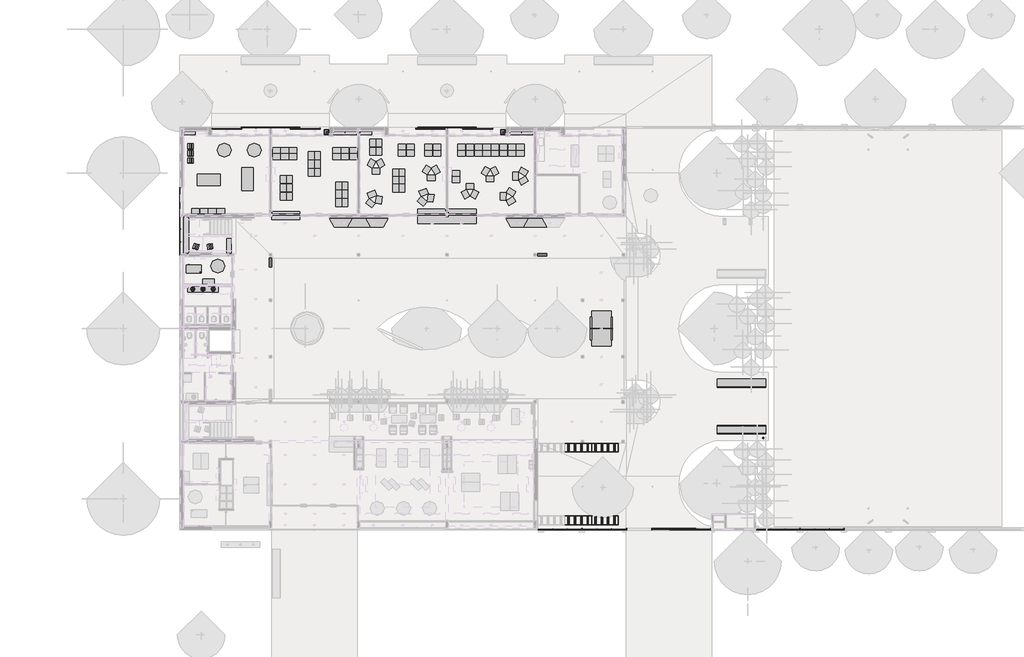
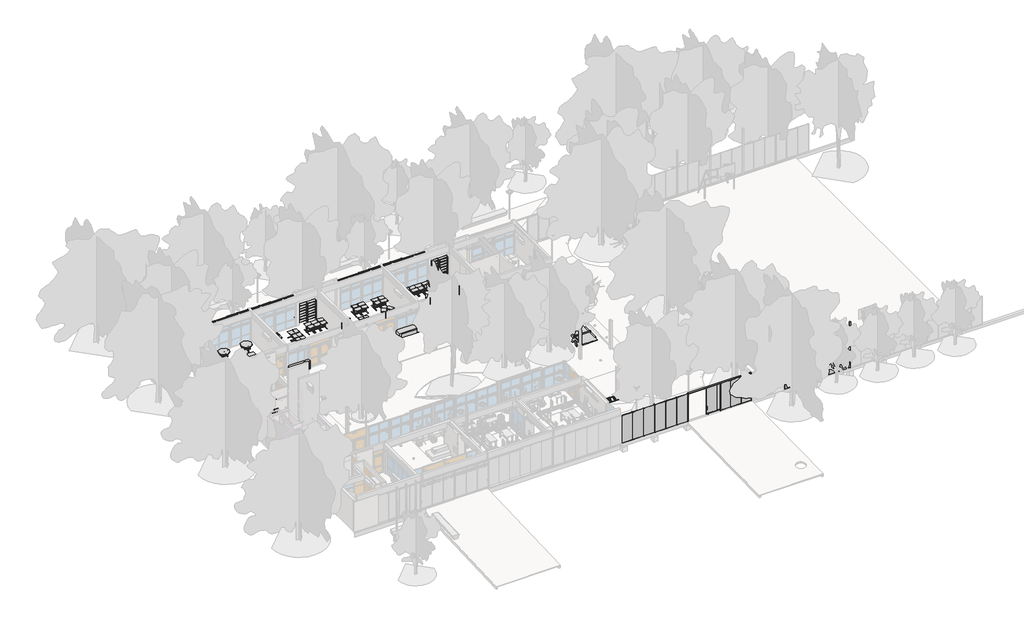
# One storey, part 18 of 22: 140 furniture elements, 7 flow terminals.
"""IFC4 building model written with IfcOpenShell, lengths in millimetres."""

from ifc_helpers import new_model, si_unit, frame, origin, place, context, project, spatial, polyline, outline, extrude, transform, mapped, element, save
from components import flow_terminal_6fa54989, flow_terminal_a7845b32, flow_terminal_eff49a54, furniture_19ca3369, furniture_ab439d99, furniture_b328b4e4, furniture_2009737b, furniture_937832ed, furniture_beb05811, furniture_e801d33e, furniture_be81a5af, furniture_7bc934b7, furniture_ed805c17, furniture_2b1f3197, furniture_a8138b70, furniture_b6be04e7, furniture_e9eda647, furniture_6eccd7ec, furniture_776c19b2, furniture_e62c53e2, furniture_a2313781, furniture_18cd3a3b, furniture_4388585e, furniture_e5700928, furniture_c9469870, furniture_b4863d8b, furniture_cf3a5ee0, furniture_af94d752, furniture_9026edcb, furniture_2_12_escritorio_2_12_escritorio_cd86329a, furniture_2_16_mesa_redonda_2_16_mesa_redonda_79845c6b

model = new_model("IFC4")

# Units and contexts
model_context = context("Model", 3, world=origin())
ifc_project = project(units=[si_unit("LENGTHUNIT", "METRE", prefix="MILLI")], contexts=[model_context])

# Site, building, storey
site = spatial("IfcSite", under=ifc_project)
building = spatial("IfcBuilding", under=site)
storey = spatial("IfcBuildingStorey", under=building, Name="PLanta baja", Elevation=0.0)

# Flow terminals
placement = place(None, origin())
flow_terminal_shape = flow_terminal_6fa54989(model_context)
element("IfcFlowTerminal", 1, ObjectType="APSA-I-AI-Bacha Circular Sobreponer-PET : APSA-I-AI-Bacha Circular Sobreponer-30cm-PET", at=placement, inside=storey, context=model_context, shape_type="MappedRepresentation", body=[
    mapped(flow_terminal_shape, transform((4113.7173694, 19056.4804035, 850.0), x_axis=(1.0, 0.0, 0.0), y_axis=(0.0, 1.0, 0.0), z_axis=(0.0, 0.0, 1.0))),
])
element("IfcFlowTerminal", 2, ObjectType="APSA-I-AI-Bacha Circular Sobreponer-PET : APSA-I-AI-Bacha Circular Sobreponer-30cm-PET", at=placement, inside=storey, context=model_context, shape_type="MappedRepresentation", body=[
    mapped(flow_terminal_shape, transform((4913.7173694, 19056.4804035, 850.0), x_axis=(1.0, 0.0, 0.0), y_axis=(0.0, 1.0, 0.0), z_axis=(0.0, 0.0, 1.0))),
])
element("IfcFlowTerminal", 3, ObjectType="APSA-I-AI-Bacha Circular Sobreponer-PET : APSA-I-AI-Bacha Circular Sobreponer-30cm-PET", at=placement, inside=storey, context=model_context, shape_type="MappedRepresentation", body=[
    mapped(flow_terminal_shape, transform((5713.7173694, 19056.4804035, 850.0), x_axis=(1.0, 0.0, 0.0), y_axis=(0.0, 1.0, 0.0), z_axis=(0.0, 0.0, 1.0))),
])
flow_terminal_2_shape = flow_terminal_a7845b32(model_context)
element("IfcFlowTerminal", 4, ObjectType="APSA-I-HI-Boca de incendio-PET : APSA_I_HI_Boca de incendio-PET", at=placement, inside=storey, context=model_context, shape_type="MappedRepresentation", body=[
    mapped(flow_terminal_2_shape, transform((10190.2812196, 21120.3068742, 772.2792307), x_axis=(1.0, 0.0, 0.0), y_axis=(0.0, 1.0, 0.0), z_axis=(0.0, 0.0, 1.0))),
])
element("IfcFlowTerminal", 5, ObjectType="APSA-I-HI-Boca de incendio-PET : APSA_I_HI_Boca de incendio-PET", at=placement, inside=storey, context=model_context, shape_type="MappedRepresentation", body=[
    mapped(flow_terminal_2_shape, transform((31437.4997239, 21722.4125054, 744.7555496), x_axis=(0.0, 1.0, 0.0), y_axis=(-1.0, 0.0, 0.0), z_axis=(0.0, 0.0, 1.0))),
])
flow_terminal_3_shape = flow_terminal_eff49a54(model_context)
element("IfcFlowTerminal", 6, ObjectType="Pileta Aulas con Cartela : Pileta laboratorio", at=placement, inside=storey, context=model_context, shape_type="MappedRepresentation", body=[
    mapped(flow_terminal_3_shape, transform((14583.9168021, 31330.2304035, 900.0), x_axis=(1.0, 0.0, 0.0), y_axis=(0.0, 1.0, 0.0), z_axis=(0.0, 0.0, 1.0))),
])
element("IfcFlowTerminal", 7, ObjectType="Pileta Aulas con Cartela : Pileta laboratorio", at=placement, inside=storey, context=model_context, shape_type="MappedRepresentation", body=[
    mapped(flow_terminal_3_shape, transform((28383.9168021, 31330.2304035, 888.8976378), x_axis=(1.0, 0.0, 0.0), y_axis=(0.0, 1.0, 0.0), z_axis=(0.0, 0.0, 1.0))),
])

# Furniture
element("IfcFurniture", 8, ObjectType="C11 Asiento Rectangulo : C11.2 Asiento rectangular 290x40x40", at=placement, inside=storey, context=model_context, shape_type="SweptSolid", body=[
    extrude(outline(polyline([(3388.7173693, 24720.2304035), (3788.7173693, 24720.2304035), (3788.7173693, 21820.2304035), (3388.7173693, 21820.2304035), (3388.7173693, 24720.2304035)])), frame((0.0, 0.0, -20.0), z_axis=(0.0, 0.0, 1.0), x_axis=(1.0, 0.0, 0.0)), (0.0, 0.0, 1.0), 20.0),
    extrude(outline(polyline([(3388.7173693, 24720.2304035), (3788.7173693, 24720.2304035), (3788.7173693, 21820.2304035), (3388.7173693, 21820.2304035), (3388.7173693, 24720.2304035)]), holes=[polyline([(3408.7173693, 24700.2304035), (3408.7173693, 21840.2304035), (3768.7173693, 21840.2304035), (3768.7173693, 24700.2304035), (3408.7173693, 24700.2304035)])]), frame((0.0, 0.0, -400.0), z_axis=(0.0, 0.0, 1.0), x_axis=(1.0, 0.0, 0.0)), (0.0, 0.0, 1.0), 380.0),
])
furniture_shape = furniture_19ca3369(model_context)
element("IfcFurniture", 9, ObjectType="2.8 Mesa sala docente : 2.8 Mesa sala docente", at=placement, inside=storey, context=model_context, shape_type="MappedRepresentation", body=[
    mapped(furniture_shape, transform((8404.9482199, 27668.8759218, 0.0), x_axis=(0.0, 1.0, 0.0), y_axis=(-1.0, 0.0, 0.0), z_axis=(0.0, 0.0, 1.0))),
])
element("IfcFurniture", 10, ObjectType="2.8 Mesa sala docente : 2.8 Mesa sala docente", at=placement, inside=storey, context=model_context, shape_type="MappedRepresentation", body=[
    mapped(furniture_shape, transform((5364.2269807, 27591.7293266, 0.0), x_axis=(1.0, 0.0, 0.0), y_axis=(0.0, 1.0, 0.0), z_axis=(0.0, 0.0, 1.0))),
])
furniture_2_shape = furniture_ab439d99(model_context)
element("IfcFurniture", 11, ObjectType="4.5 Estantería baja : 4.5 Estantería baja", at=placement, inside=storey, context=model_context, shape_type="MappedRepresentation", body=[
    mapped(furniture_2_shape, transform((5333.7173694, 19632.7304035, 0.0), x_axis=(1.0, 0.0, 0.0), y_axis=(0.0, 1.0, 0.0), z_axis=(0.0, 0.0, 1.0))),
])
furniture_3_shape = furniture_b328b4e4(model_context)
element("IfcFurniture", 12, ObjectType="2.1 Mesa alumno : 2.1 Mesa alumno", at=placement, inside=storey, context=model_context, shape_type="MappedRepresentation", body=[
    mapped(furniture_3_shape, transform((16025.7437098, 29898.1211098, 0.0), x_axis=(1.0, 0.0, 0.0), y_axis=(0.0, 1.0, 0.0), z_axis=(0.0, 0.0, 1.0))),
])
element("IfcFurniture", 13, ObjectType="2.1 Mesa alumno : 2.1 Mesa alumno", at=placement, inside=storey, context=model_context, shape_type="MappedRepresentation", body=[
    mapped(furniture_3_shape, transform((16679.6879654, 29898.1211098, 0.0), x_axis=(1.0, 0.0, 0.0), y_axis=(0.0, 1.0, 0.0), z_axis=(0.0, 0.0, 1.0))),
])
element("IfcFurniture", 14, ObjectType="2.1 Mesa alumno : 2.1 Mesa alumno", at=placement, inside=storey, context=model_context, shape_type="MappedRepresentation", body=[
    mapped(furniture_3_shape, transform((16679.6870118, 29413.3070402, 0.0), x_axis=(-0.9999999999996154, 8.770485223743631e-07, 0.0), y_axis=(-8.770485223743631e-07, -0.9999999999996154, 0.0), z_axis=(0.0, 0.0, 1.0))),
])
element("IfcFurniture", 15, ObjectType="2.1 Mesa alumno : 2.1 Mesa alumno", at=placement, inside=storey, context=model_context, shape_type="MappedRepresentation", body=[
    mapped(furniture_3_shape, transform((16025.7427561, 29413.3070402, 0.0), x_axis=(-1.0, 0.0, 0.0), y_axis=(0.0, -1.0, 0.0), z_axis=(0.0, 0.0, 1.0))),
])
element("IfcFurniture", 16, ObjectType="2.1 Mesa alumno : 2.1 Mesa alumno", at=placement, inside=storey, context=model_context, shape_type="MappedRepresentation", body=[
    mapped(furniture_3_shape, transform((15371.7994542, 29898.1211098, 0.0), x_axis=(1.0, 0.0, 0.0), y_axis=(0.0, 1.0, 0.0), z_axis=(0.0, 0.0, 1.0))),
])
element("IfcFurniture", 17, ObjectType="2.1 Mesa alumno : 2.1 Mesa alumno", at=placement, inside=storey, context=model_context, shape_type="MappedRepresentation", body=[
    mapped(furniture_3_shape, transform((15371.7985005, 29413.3070402, 0.0), x_axis=(-1.0, 0.0, 0.0), y_axis=(0.0, -1.0, 0.0), z_axis=(0.0, 0.0, 1.0))),
])
element("IfcFurniture", 18, ObjectType="2.1 Mesa alumno : 2.1 Mesa alumno", at=placement, inside=storey, context=model_context, shape_type="MappedRepresentation", body=[
    mapped(furniture_3_shape, transform((15532.4936079, 26481.2756005, 0.0), x_axis=(0.0, 1.0, 0.0), y_axis=(-1.0, 0.0, 0.0), z_axis=(0.0, 0.0, 1.0))),
])
element("IfcFurniture", 19, ObjectType="2.1 Mesa alumno : 2.1 Mesa alumno", at=placement, inside=storey, context=model_context, shape_type="MappedRepresentation", body=[
    mapped(furniture_3_shape, transform((15532.4936079, 27135.2198561, 0.0), x_axis=(0.0, 1.0, 0.0), y_axis=(-1.0, 0.0, 0.0), z_axis=(0.0, 0.0, 1.0))),
])
element("IfcFurniture", 20, ObjectType="2.1 Mesa alumno : 2.1 Mesa alumno", at=placement, inside=storey, context=model_context, shape_type="MappedRepresentation", body=[
    mapped(furniture_3_shape, transform((16017.3076775, 27135.2189025, 0.0), x_axis=(-8.770485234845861e-07, -0.9999999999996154, 0.0), y_axis=(0.9999999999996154, -8.770485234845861e-07, 0.0), z_axis=(0.0, 0.0, 1.0))),
])
element("IfcFurniture", 21, ObjectType="2.1 Mesa alumno : 2.1 Mesa alumno", at=placement, inside=storey, context=model_context, shape_type="MappedRepresentation", body=[
    mapped(furniture_3_shape, transform((16017.3076775, 26481.2746468, 0.0), x_axis=(0.0, -1.0, 0.0), y_axis=(1.0, 0.0, 0.0), z_axis=(0.0, 0.0, 1.0))),
])
element("IfcFurniture", 22, ObjectType="2.1 Mesa alumno : 2.1 Mesa alumno", at=placement, inside=storey, context=model_context, shape_type="MappedRepresentation", body=[
    mapped(furniture_3_shape, transform((15532.4936079, 25821.2756005, 0.0), x_axis=(0.0, 1.0, 0.0), y_axis=(-1.0, 0.0, 0.0), z_axis=(0.0, 0.0, 1.0))),
])
element("IfcFurniture", 23, ObjectType="2.1 Mesa alumno : 2.1 Mesa alumno", at=placement, inside=storey, context=model_context, shape_type="MappedRepresentation", body=[
    mapped(furniture_3_shape, transform((16017.3076775, 25821.2746468, 0.0), x_axis=(0.0, -1.0, 0.0), y_axis=(1.0, 0.0, 0.0), z_axis=(0.0, 0.0, 1.0))),
])
element("IfcFurniture", 24, ObjectType="2.1 Mesa alumno : 2.1 Mesa alumno", at=placement, inside=storey, context=model_context, shape_type="MappedRepresentation", body=[
    mapped(furniture_3_shape, transform((11192.4936079, 26981.2756005, 0.0), x_axis=(0.0, 1.0, 0.0), y_axis=(-1.0, 0.0, 0.0), z_axis=(0.0, 0.0, 1.0))),
])
element("IfcFurniture", 25, ObjectType="2.1 Mesa alumno : 2.1 Mesa alumno", at=placement, inside=storey, context=model_context, shape_type="MappedRepresentation", body=[
    mapped(furniture_3_shape, transform((11192.4936079, 27635.2198561, 0.0), x_axis=(0.0, 1.0, 0.0), y_axis=(-1.0, 0.0, 0.0), z_axis=(0.0, 0.0, 1.0))),
])
element("IfcFurniture", 26, ObjectType="2.1 Mesa alumno : 2.1 Mesa alumno", at=placement, inside=storey, context=model_context, shape_type="MappedRepresentation", body=[
    mapped(furniture_3_shape, transform((11677.3076775, 27635.2189025, 0.0), x_axis=(-8.770485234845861e-07, -0.9999999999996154, 0.0), y_axis=(0.9999999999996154, -8.770485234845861e-07, 0.0), z_axis=(0.0, 0.0, 1.0))),
])
element("IfcFurniture", 27, ObjectType="2.1 Mesa alumno : 2.1 Mesa alumno", at=placement, inside=storey, context=model_context, shape_type="MappedRepresentation", body=[
    mapped(furniture_3_shape, transform((11677.3076775, 26981.2746468, 0.0), x_axis=(0.0, -1.0, 0.0), y_axis=(1.0, 0.0, 0.0), z_axis=(0.0, 0.0, 1.0))),
])
element("IfcFurniture", 28, ObjectType="2.1 Mesa alumno : 2.1 Mesa alumno", at=placement, inside=storey, context=model_context, shape_type="MappedRepresentation", body=[
    mapped(furniture_3_shape, transform((11192.4936079, 26321.2756005, 0.0), x_axis=(0.0, 1.0, 0.0), y_axis=(-1.0, 0.0, 0.0), z_axis=(0.0, 0.0, 1.0))),
])
element("IfcFurniture", 29, ObjectType="2.1 Mesa alumno : 2.1 Mesa alumno", at=placement, inside=storey, context=model_context, shape_type="MappedRepresentation", body=[
    mapped(furniture_3_shape, transform((11677.3076775, 26321.2746468, 0.0), x_axis=(0.0, -1.0, 0.0), y_axis=(1.0, 0.0, 0.0), z_axis=(0.0, 0.0, 1.0))),
])
element("IfcFurniture", 30, ObjectType="2.1 Mesa alumno : 2.1 Mesa alumno", at=placement, inside=storey, context=model_context, shape_type="MappedRepresentation", body=[
    mapped(furniture_3_shape, transform((13378.4831843, 28836.7727837, 0.0), x_axis=(0.0, 1.0, 0.0), y_axis=(-1.0, 0.0, 0.0), z_axis=(0.0, 0.0, 1.0))),
])
element("IfcFurniture", 31, ObjectType="2.1 Mesa alumno : 2.1 Mesa alumno", at=placement, inside=storey, context=model_context, shape_type="MappedRepresentation", body=[
    mapped(furniture_3_shape, transform((13378.4831843, 29490.7170393, 0.0), x_axis=(0.0, 1.0, 0.0), y_axis=(-1.0, 0.0, 0.0), z_axis=(0.0, 0.0, 1.0))),
])
element("IfcFurniture", 32, ObjectType="2.1 Mesa alumno : 2.1 Mesa alumno", at=placement, inside=storey, context=model_context, shape_type="MappedRepresentation", body=[
    mapped(furniture_3_shape, transform((13863.2972539, 29490.7160857, 0.0), x_axis=(-8.770485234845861e-07, -0.9999999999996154, 0.0), y_axis=(0.9999999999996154, -8.770485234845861e-07, 0.0), z_axis=(0.0, 0.0, 1.0))),
])
element("IfcFurniture", 33, ObjectType="2.1 Mesa alumno : 2.1 Mesa alumno", at=placement, inside=storey, context=model_context, shape_type="MappedRepresentation", body=[
    mapped(furniture_3_shape, transform((13863.2972539, 28836.77183, 0.0), x_axis=(0.0, -1.0, 0.0), y_axis=(1.0, 0.0, 0.0), z_axis=(0.0, 0.0, 1.0))),
])
element("IfcFurniture", 34, ObjectType="2.1 Mesa alumno : 2.1 Mesa alumno", at=placement, inside=storey, context=model_context, shape_type="MappedRepresentation", body=[
    mapped(furniture_3_shape, transform((13378.4831843, 28176.7727837, 0.0), x_axis=(0.0, 1.0, 0.0), y_axis=(-1.0, 0.0, 0.0), z_axis=(0.0, 0.0, 1.0))),
])
element("IfcFurniture", 35, ObjectType="2.1 Mesa alumno : 2.1 Mesa alumno", at=placement, inside=storey, context=model_context, shape_type="MappedRepresentation", body=[
    mapped(furniture_3_shape, transform((13863.2972539, 28176.77183, 0.0), x_axis=(0.0, -1.0, 0.0), y_axis=(1.0, 0.0, 0.0), z_axis=(0.0, 0.0, 1.0))),
])
element("IfcFurniture", 36, ObjectType="2.1 Mesa alumno : 2.1 Mesa alumno", at=placement, inside=storey, context=model_context, shape_type="MappedRepresentation", body=[
    mapped(furniture_3_shape, transform((23106.5684812, 28370.8323981, 0.0), x_axis=(0.49999999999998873, -0.8660254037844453, 0.0), y_axis=(0.8660254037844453, 0.49999999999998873, 0.0), z_axis=(0.0, 0.0, 1.0))),
])
element("IfcFurniture", 37, ObjectType="2.1 Mesa alumno : 2.1 Mesa alumno", at=placement, inside=storey, context=model_context, shape_type="MappedRepresentation", body=[
    mapped(furniture_3_shape, transform((22408.9354485, 28373.0235077, 0.0), x_axis=(0.5000000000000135, 0.8660254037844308, 0.0), y_axis=(-0.8660254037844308, 0.5000000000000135, 0.0), z_axis=(0.0, 0.0, 1.0))),
])
element("IfcFurniture", 38, ObjectType="2.1 Mesa alumno : 2.1 Mesa alumno", at=placement, inside=storey, context=model_context, shape_type="MappedRepresentation", body=[
    mapped(furniture_3_shape, transform((22758.7155133, 27762.7148415, 0.0), x_axis=(-0.9999999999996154, 8.770485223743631e-07, 0.0), y_axis=(-8.770485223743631e-07, -0.9999999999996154, 0.0), z_axis=(0.0, 0.0, 1.0))),
])
element("IfcFurniture", 39, ObjectType="2.1 Mesa alumno : 2.1 Mesa alumno", at=placement, inside=storey, context=model_context, shape_type="MappedRepresentation", body=[
    mapped(furniture_3_shape, transform((18790.6351404, 28890.9836289, 0.0), x_axis=(0.49999999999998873, -0.8660254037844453, 0.0), y_axis=(0.8660254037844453, 0.49999999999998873, 0.0), z_axis=(0.0, 0.0, 1.0))),
])
element("IfcFurniture", 40, ObjectType="2.1 Mesa alumno : 2.1 Mesa alumno", at=placement, inside=storey, context=model_context, shape_type="MappedRepresentation", body=[
    mapped(furniture_3_shape, transform((18093.0021077, 28893.1747384, 0.0), x_axis=(0.5000000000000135, 0.8660254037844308, 0.0), y_axis=(-0.8660254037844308, 0.5000000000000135, 0.0), z_axis=(0.0, 0.0, 1.0))),
])
element("IfcFurniture", 41, ObjectType="2.1 Mesa alumno : 2.1 Mesa alumno", at=placement, inside=storey, context=model_context, shape_type="MappedRepresentation", body=[
    mapped(furniture_3_shape, transform((18442.7821725, 28282.8660723, 0.0), x_axis=(-0.9999999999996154, 8.770485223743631e-07, 0.0), y_axis=(-8.770485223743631e-07, -0.9999999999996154, 0.0), z_axis=(0.0, 0.0, 1.0))),
])
element("IfcFurniture", 42, ObjectType="2.1 Mesa alumno : 2.1 Mesa alumno", at=placement, inside=storey, context=model_context, shape_type="MappedRepresentation", body=[
    mapped(furniture_3_shape, transform((18667.8256795, 26028.931766, 0.0), x_axis=(-0.1564344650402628, -0.9876883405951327, 0.0), y_axis=(0.9876883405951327, -0.1564344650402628, 0.0), z_axis=(0.0, 0.0, 1.0))),
])
element("IfcFurniture", 43, ObjectType="2.1 Mesa alumno : 2.1 Mesa alumno", at=placement, inside=storey, context=model_context, shape_type="MappedRepresentation", body=[
    mapped(furniture_3_shape, transform((18127.0418955, 26469.6692709, 0.0), x_axis=(0.9335804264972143, 0.35836794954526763, 0.0), y_axis=(-0.35836794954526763, 0.9335804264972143, 0.0), z_axis=(0.0, 0.0, 1.0))),
])
element("IfcFurniture", 44, ObjectType="2.1 Mesa alumno : 2.1 Mesa alumno", at=placement, inside=storey, context=model_context, shape_type="MappedRepresentation", body=[
    mapped(furniture_3_shape, transform((18014.7923717, 25775.2466286, 0.0), x_axis=(-0.7771454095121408, 0.6293210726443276, 0.0), y_axis=(-0.6293210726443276, -0.7771454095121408, 0.0), z_axis=(0.0, 0.0, 1.0))),
])
element("IfcFurniture", 45, ObjectType="2.1 Mesa alumno : 2.1 Mesa alumno", at=placement, inside=storey, context=model_context, shape_type="MappedRepresentation", body=[
    mapped(furniture_3_shape, transform((20484.3924969, 30183.3836097, 0.0), x_axis=(1.0, 0.0, 0.0), y_axis=(0.0, 1.0, 0.0), z_axis=(0.0, 0.0, 1.0))),
])
element("IfcFurniture", 46, ObjectType="2.1 Mesa alumno : 2.1 Mesa alumno", at=placement, inside=storey, context=model_context, shape_type="MappedRepresentation", body=[
    mapped(furniture_3_shape, transform((21138.3367525, 30183.3836097, 0.0), x_axis=(1.0, 0.0, 0.0), y_axis=(0.0, 1.0, 0.0), z_axis=(0.0, 0.0, 1.0))),
])
element("IfcFurniture", 47, ObjectType="2.1 Mesa alumno : 2.1 Mesa alumno", at=placement, inside=storey, context=model_context, shape_type="MappedRepresentation", body=[
    mapped(furniture_3_shape, transform((21138.3357989, 29698.5695401, 0.0), x_axis=(-0.9999999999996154, 8.770485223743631e-07, 0.0), y_axis=(-8.770485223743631e-07, -0.9999999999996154, 0.0), z_axis=(0.0, 0.0, 1.0))),
])
element("IfcFurniture", 48, ObjectType="2.1 Mesa alumno : 2.1 Mesa alumno", at=placement, inside=storey, context=model_context, shape_type="MappedRepresentation", body=[
    mapped(furniture_3_shape, transform((20484.3915432, 29698.5695401, 0.0), x_axis=(-1.0, 0.0, 0.0), y_axis=(0.0, -1.0, 0.0), z_axis=(0.0, 0.0, 1.0))),
])
element("IfcFurniture", 49, ObjectType="2.1 Mesa alumno : 2.1 Mesa alumno", at=placement, inside=storey, context=model_context, shape_type="MappedRepresentation", body=[
    mapped(furniture_3_shape, transform((18680.6388412, 30480.0612403, 0.0), x_axis=(0.0, -1.0, 0.0), y_axis=(1.0, 0.0, 0.0), z_axis=(0.0, 0.0, 1.0))),
])
element("IfcFurniture", 50, ObjectType="2.1 Mesa alumno : 2.1 Mesa alumno", at=placement, inside=storey, context=model_context, shape_type="MappedRepresentation", body=[
    mapped(furniture_3_shape, transform((18680.6388412, 29826.1169846, 0.0), x_axis=(0.0, -1.0, 0.0), y_axis=(1.0, 0.0, 0.0), z_axis=(0.0, 0.0, 1.0))),
])
element("IfcFurniture", 51, ObjectType="2.1 Mesa alumno : 2.1 Mesa alumno", at=placement, inside=storey, context=model_context, shape_type="MappedRepresentation", body=[
    mapped(furniture_3_shape, transform((18195.8247715, 29826.1179383, 0.0), x_axis=(8.7704852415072e-07, 0.9999999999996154, 0.0), y_axis=(-0.9999999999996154, 8.7704852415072e-07, 0.0), z_axis=(0.0, 0.0, 1.0))),
])
element("IfcFurniture", 52, ObjectType="2.1 Mesa alumno : 2.1 Mesa alumno", at=placement, inside=storey, context=model_context, shape_type="MappedRepresentation", body=[
    mapped(furniture_3_shape, transform((18195.8247715, 30480.0621939, 0.0), x_axis=(0.0, 1.0, 0.0), y_axis=(-1.0, 0.0, 0.0), z_axis=(0.0, 0.0, 1.0))),
])
element("IfcFurniture", 53, ObjectType="2.1 Mesa alumno : 2.1 Mesa alumno", at=placement, inside=storey, context=model_context, shape_type="MappedRepresentation", body=[
    mapped(furniture_3_shape, transform((22544.7639537, 30158.1158133, 0.0), x_axis=(1.0, 0.0, 0.0), y_axis=(0.0, 1.0, 0.0), z_axis=(0.0, 0.0, 1.0))),
])
element("IfcFurniture", 54, ObjectType="2.1 Mesa alumno : 2.1 Mesa alumno", at=placement, inside=storey, context=model_context, shape_type="MappedRepresentation", body=[
    mapped(furniture_3_shape, transform((23198.7082093, 30158.1158133, 0.0), x_axis=(1.0, 0.0, 0.0), y_axis=(0.0, 1.0, 0.0), z_axis=(0.0, 0.0, 1.0))),
])
element("IfcFurniture", 55, ObjectType="2.1 Mesa alumno : 2.1 Mesa alumno", at=placement, inside=storey, context=model_context, shape_type="MappedRepresentation", body=[
    mapped(furniture_3_shape, transform((23198.7072557, 29673.3017437, 0.0), x_axis=(-0.9999999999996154, 8.770485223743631e-07, 0.0), y_axis=(-8.770485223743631e-07, -0.9999999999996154, 0.0), z_axis=(0.0, 0.0, 1.0))),
])
element("IfcFurniture", 56, ObjectType="2.1 Mesa alumno : 2.1 Mesa alumno", at=placement, inside=storey, context=model_context, shape_type="MappedRepresentation", body=[
    mapped(furniture_3_shape, transform((22544.763, 29673.3017437, 0.0), x_axis=(-1.0, 0.0, 0.0), y_axis=(0.0, -1.0, 0.0), z_axis=(0.0, 0.0, 1.0))),
])
element("IfcFurniture", 57, ObjectType="2.1 Mesa alumno : 2.1 Mesa alumno", at=placement, inside=storey, context=model_context, shape_type="MappedRepresentation", body=[
    mapped(furniture_3_shape, transform((25794.1160186, 30162.9352499, 0.0), x_axis=(1.0, 0.0, 0.0), y_axis=(0.0, 1.0, 0.0), z_axis=(0.0, 0.0, 1.0))),
])
element("IfcFurniture", 58, ObjectType="2.1 Mesa alumno : 2.1 Mesa alumno", at=placement, inside=storey, context=model_context, shape_type="MappedRepresentation", body=[
    mapped(furniture_3_shape, transform((26448.0602742, 30162.9352499, 0.0), x_axis=(1.0, 0.0, 0.0), y_axis=(0.0, 1.0, 0.0), z_axis=(0.0, 0.0, 1.0))),
])
element("IfcFurniture", 59, ObjectType="2.1 Mesa alumno : 2.1 Mesa alumno", at=placement, inside=storey, context=model_context, shape_type="MappedRepresentation", body=[
    mapped(furniture_3_shape, transform((26448.0593206, 29678.1211803, 0.0), x_axis=(-0.9999999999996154, 8.770485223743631e-07, 0.0), y_axis=(-8.770485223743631e-07, -0.9999999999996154, 0.0), z_axis=(0.0, 0.0, 1.0))),
])
element("IfcFurniture", 60, ObjectType="2.1 Mesa alumno : 2.1 Mesa alumno", at=placement, inside=storey, context=model_context, shape_type="MappedRepresentation", body=[
    mapped(furniture_3_shape, transform((25794.1150649, 29678.1211803, 0.0), x_axis=(-1.0, 0.0, 0.0), y_axis=(0.0, -1.0, 0.0), z_axis=(0.0, 0.0, 1.0))),
])
element("IfcFurniture", 61, ObjectType="2.1 Mesa alumno : 2.1 Mesa alumno", at=placement, inside=storey, context=model_context, shape_type="MappedRepresentation", body=[
    mapped(furniture_3_shape, transform((22159.1646146, 26604.072254, 0.0), x_axis=(0.9299263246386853, 0.3677458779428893, 0.0), y_axis=(-0.3677458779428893, 0.9299263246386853, 0.0), z_axis=(0.0, 0.0, 1.0))),
])
element("IfcFurniture", 62, ObjectType="2.1 Mesa alumno : 2.1 Mesa alumno", at=placement, inside=storey, context=model_context, shape_type="MappedRepresentation", body=[
    mapped(furniture_3_shape, transform((22054.8037455, 25914.2857231, 0.0), x_axis=(-0.7834404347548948, 0.6214668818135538, 0.0), y_axis=(-0.6214668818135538, -0.7834404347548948, 0.0), z_axis=(0.0, 0.0, 1.0))),
])
element("IfcFurniture", 63, ObjectType="2.1 Mesa alumno : 2.1 Mesa alumno", at=placement, inside=storey, context=model_context, shape_type="MappedRepresentation", body=[
    mapped(furniture_3_shape, transform((22709.7667095, 26170.8910182, 0.0), x_axis=(-0.14648675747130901, -0.9892126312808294, 0.0), y_axis=(0.9892126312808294, -0.14648675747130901, 0.0), z_axis=(0.0, 0.0, 1.0))),
])
element("IfcFurniture", 64, ObjectType="2.1 Mesa alumno : 2.1 Mesa alumno", at=placement, inside=storey, context=model_context, shape_type="MappedRepresentation", body=[
    mapped(furniture_3_shape, transform((27102.0045299, 30162.9352499, 0.0), x_axis=(1.0, 0.0, 0.0), y_axis=(0.0, 1.0, 0.0), z_axis=(0.0, 0.0, 1.0))),
])
element("IfcFurniture", 65, ObjectType="2.1 Mesa alumno : 2.1 Mesa alumno", at=placement, inside=storey, context=model_context, shape_type="MappedRepresentation", body=[
    mapped(furniture_3_shape, transform((27102.0035762, 29678.1211803, 0.0), x_axis=(-0.9999999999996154, 8.770485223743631e-07, 0.0), y_axis=(-8.770485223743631e-07, -0.9999999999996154, 0.0), z_axis=(0.0, 0.0, 1.0))),
])
element("IfcFurniture", 66, ObjectType="2.1 Mesa alumno : 2.1 Mesa alumno", at=placement, inside=storey, context=model_context, shape_type="MappedRepresentation", body=[
    mapped(furniture_3_shape, transform((27755.9487855, 30162.9352499, 0.0), x_axis=(1.0, 0.0, 0.0), y_axis=(0.0, 1.0, 0.0), z_axis=(0.0, 0.0, 1.0))),
])
element("IfcFurniture", 67, ObjectType="2.1 Mesa alumno : 2.1 Mesa alumno", at=placement, inside=storey, context=model_context, shape_type="MappedRepresentation", body=[
    mapped(furniture_3_shape, transform((27755.9478319, 29678.1211803, 0.0), x_axis=(-0.9999999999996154, 8.770485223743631e-07, 0.0), y_axis=(-8.770485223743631e-07, -0.9999999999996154, 0.0), z_axis=(0.0, 0.0, 1.0))),
])
element("IfcFurniture", 68, ObjectType="2.1 Mesa alumno : 2.1 Mesa alumno", at=placement, inside=storey, context=model_context, shape_type="MappedRepresentation", body=[
    mapped(furniture_3_shape, transform((28409.8930411, 30162.9352499, 0.0), x_axis=(1.0, 0.0, 0.0), y_axis=(0.0, 1.0, 0.0), z_axis=(0.0, 0.0, 1.0))),
])
element("IfcFurniture", 69, ObjectType="2.1 Mesa alumno : 2.1 Mesa alumno", at=placement, inside=storey, context=model_context, shape_type="MappedRepresentation", body=[
    mapped(furniture_3_shape, transform((28409.8920875, 29678.1211803, 0.0), x_axis=(-0.9999999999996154, 8.770485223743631e-07, 0.0), y_axis=(-8.770485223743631e-07, -0.9999999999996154, 0.0), z_axis=(0.0, 0.0, 1.0))),
])
element("IfcFurniture", 70, ObjectType="2.1 Mesa alumno : 2.1 Mesa alumno", at=placement, inside=storey, context=model_context, shape_type="MappedRepresentation", body=[
    mapped(furniture_3_shape, transform((29063.8372967, 30162.9352499, 0.0), x_axis=(1.0, 0.0, 0.0), y_axis=(0.0, 1.0, 0.0), z_axis=(0.0, 0.0, 1.0))),
])
element("IfcFurniture", 71, ObjectType="2.1 Mesa alumno : 2.1 Mesa alumno", at=placement, inside=storey, context=model_context, shape_type="MappedRepresentation", body=[
    mapped(furniture_3_shape, transform((29063.8363431, 29678.1211803, 0.0), x_axis=(-0.9999999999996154, 8.770485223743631e-07, 0.0), y_axis=(-8.770485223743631e-07, -0.9999999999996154, 0.0), z_axis=(0.0, 0.0, 1.0))),
])
element("IfcFurniture", 72, ObjectType="2.1 Mesa alumno : 2.1 Mesa alumno", at=placement, inside=storey, context=model_context, shape_type="MappedRepresentation", body=[
    mapped(furniture_3_shape, transform((29717.7815523, 30162.9352499, 0.0), x_axis=(1.0, 0.0, 0.0), y_axis=(0.0, 1.0, 0.0), z_axis=(0.0, 0.0, 1.0))),
])
element("IfcFurniture", 73, ObjectType="2.1 Mesa alumno : 2.1 Mesa alumno", at=placement, inside=storey, context=model_context, shape_type="MappedRepresentation", body=[
    mapped(furniture_3_shape, transform((29717.7805987, 29678.1211803, 0.0), x_axis=(-0.9999999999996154, 8.770485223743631e-07, 0.0), y_axis=(-8.770485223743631e-07, -0.9999999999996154, 0.0), z_axis=(0.0, 0.0, 1.0))),
])
element("IfcFurniture", 74, ObjectType="2.1 Mesa alumno : 2.1 Mesa alumno", at=placement, inside=storey, context=model_context, shape_type="MappedRepresentation", body=[
    mapped(furniture_3_shape, transform((25134.1160186, 30162.9352499, 0.0), x_axis=(1.0, 0.0, 0.0), y_axis=(0.0, 1.0, 0.0), z_axis=(0.0, 0.0, 1.0))),
])
element("IfcFurniture", 75, ObjectType="2.1 Mesa alumno : 2.1 Mesa alumno", at=placement, inside=storey, context=model_context, shape_type="MappedRepresentation", body=[
    mapped(furniture_3_shape, transform((25134.1150649, 29678.1211803, 0.0), x_axis=(-1.0, 0.0, 0.0), y_axis=(0.0, -1.0, 0.0), z_axis=(0.0, 0.0, 1.0))),
])
element("IfcFurniture", 76, ObjectType="2.1 Mesa alumno : 2.1 Mesa alumno", at=placement, inside=storey, context=model_context, shape_type="MappedRepresentation", body=[
    mapped(furniture_3_shape, transform((29960.9822484, 27549.8248333, 0.0), x_axis=(-0.866025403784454, -0.4999999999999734, 0.0), y_axis=(0.4999999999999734, -0.866025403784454, 0.0), z_axis=(0.0, 0.0, 1.0))),
])
element("IfcFurniture", 77, ObjectType="2.1 Mesa alumno : 2.1 Mesa alumno", at=placement, inside=storey, context=model_context, shape_type="MappedRepresentation", body=[
    mapped(furniture_3_shape, transform((29963.173358, 28247.457866, 0.0), x_axis=(0.866025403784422, -0.5000000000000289, 0.0), y_axis=(0.5000000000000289, 0.866025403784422, 0.0), z_axis=(0.0, 0.0, 1.0))),
])
element("IfcFurniture", 78, ObjectType="2.1 Mesa alumno : 2.1 Mesa alumno", at=placement, inside=storey, context=model_context, shape_type="MappedRepresentation", body=[
    mapped(furniture_3_shape, transform((29352.8646918, 27897.6778013, 0.0), x_axis=(8.770485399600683e-07, 0.9999999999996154, 0.0), y_axis=(-0.9999999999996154, 8.770485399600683e-07, 0.0), z_axis=(0.0, 0.0, 1.0))),
])
element("IfcFurniture", 79, ObjectType="2.1 Mesa alumno : 2.1 Mesa alumno", at=placement, inside=storey, context=model_context, shape_type="MappedRepresentation", body=[
    mapped(furniture_3_shape, transform((28983.9556348, 25940.4883114, 0.0), x_axis=(-0.8746197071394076, -0.48480962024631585, 0.0), y_axis=(0.48480962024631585, -0.8746197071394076, 0.0), z_axis=(0.0, 0.0, 1.0))),
])
element("IfcFurniture", 80, ObjectType="2.1 Mesa alumno : 2.1 Mesa alumno", at=placement, inside=storey, context=model_context, shape_type="MappedRepresentation", body=[
    mapped(furniture_3_shape, transform((28998.3217858, 26637.9768511, 0.0), x_axis=(0.8571673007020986, -0.5150380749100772, 0.0), y_axis=(0.5150380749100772, 0.8571673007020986, 0.0), z_axis=(0.0, 0.0, 1.0))),
])
element("IfcFurniture", 81, ObjectType="2.1 Mesa alumno : 2.1 Mesa alumno", at=placement, inside=storey, context=model_context, shape_type="MappedRepresentation", body=[
    mapped(furniture_3_shape, transform((28382.0015688, 26298.9014144, 0.0), x_axis=(0.017453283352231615, 0.9998476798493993, 0.0), y_axis=(-0.9998476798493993, 0.017453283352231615, 0.0), z_axis=(0.0, 0.0, 1.0))),
])
element("IfcFurniture", 82, ObjectType="2.1 Mesa alumno : 2.1 Mesa alumno", at=placement, inside=storey, context=model_context, shape_type="MappedRepresentation", body=[
    mapped(furniture_3_shape, transform((27708.7105445, 28278.242614, 0.0), x_axis=(0.49999999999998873, -0.8660254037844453, 0.0), y_axis=(0.8660254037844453, 0.49999999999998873, 0.0), z_axis=(0.0, 0.0, 1.0))),
])
element("IfcFurniture", 83, ObjectType="2.1 Mesa alumno : 2.1 Mesa alumno", at=placement, inside=storey, context=model_context, shape_type="MappedRepresentation", body=[
    mapped(furniture_3_shape, transform((27011.0775118, 28280.4337236, 0.0), x_axis=(0.5000000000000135, 0.8660254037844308, 0.0), y_axis=(-0.8660254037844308, 0.5000000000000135, 0.0), z_axis=(0.0, 0.0, 1.0))),
])
element("IfcFurniture", 84, ObjectType="2.1 Mesa alumno : 2.1 Mesa alumno", at=placement, inside=storey, context=model_context, shape_type="MappedRepresentation", body=[
    mapped(furniture_3_shape, transform((27360.8575766, 27670.1250574, 0.0), x_axis=(-0.9999999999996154, 8.770485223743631e-07, 0.0), y_axis=(-8.770485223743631e-07, -0.9999999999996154, 0.0), z_axis=(0.0, 0.0, 1.0))),
])
element("IfcFurniture", 85, ObjectType="2.1 Mesa alumno : 2.1 Mesa alumno", at=placement, inside=storey, context=model_context, shape_type="MappedRepresentation", body=[
    mapped(furniture_3_shape, transform((26141.0349784, 26478.4597143, 0.0), x_axis=(-0.5000000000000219, -0.8660254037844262, 0.0), y_axis=(0.8660254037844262, -0.5000000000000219, 0.0), z_axis=(0.0, 0.0, 1.0))),
])
element("IfcFurniture", 86, ObjectType="2.1 Mesa alumno : 2.1 Mesa alumno", at=placement, inside=storey, context=model_context, shape_type="MappedRepresentation", body=[
    mapped(furniture_3_shape, transform((25794.1160186, 27083.723198, 0.0), x_axis=(1.0, 0.0, 0.0), y_axis=(0.0, 1.0, 0.0), z_axis=(0.0, 0.0, 1.0))),
])
element("IfcFurniture", 87, ObjectType="2.1 Mesa alumno : 2.1 Mesa alumno", at=placement, inside=storey, context=model_context, shape_type="MappedRepresentation", body=[
    mapped(furniture_3_shape, transform((25440.4632419, 26475.6504431, 0.0), x_axis=(-0.49999924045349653, 0.8660258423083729, 0.0), y_axis=(-0.8660258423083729, -0.49999924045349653, 0.0), z_axis=(0.0, 0.0, 1.0))),
])
element("IfcFurniture", 88, ObjectType="2.1 Mesa alumno : 2.1 Mesa alumno", at=placement, inside=storey, context=model_context, shape_type="MappedRepresentation", body=[
    mapped(furniture_3_shape, transform((19984.8071447, 26956.9727383, 0.0), x_axis=(0.0, 1.0, 0.0), y_axis=(-1.0, 0.0, 0.0), z_axis=(0.0, 0.0, 1.0))),
])
element("IfcFurniture", 89, ObjectType="2.1 Mesa alumno : 2.1 Mesa alumno", at=placement, inside=storey, context=model_context, shape_type="MappedRepresentation", body=[
    mapped(furniture_3_shape, transform((20469.6212143, 26956.9717847, 0.0), x_axis=(-8.770485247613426e-07, -0.9999999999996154, 0.0), y_axis=(0.9999999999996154, -8.770485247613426e-07, 0.0), z_axis=(0.0, 0.0, 1.0))),
])
element("IfcFurniture", 90, ObjectType="2.1 Mesa alumno : 2.1 Mesa alumno", at=placement, inside=storey, context=model_context, shape_type="MappedRepresentation", body=[
    mapped(furniture_3_shape, transform((19984.8071447, 28157.1680508, 0.0), x_axis=(0.0, 1.0, 0.0), y_axis=(-1.0, 0.0, 0.0), z_axis=(0.0, 0.0, 1.0))),
])
element("IfcFurniture", 91, ObjectType="2.1 Mesa alumno : 2.1 Mesa alumno", at=placement, inside=storey, context=model_context, shape_type="MappedRepresentation", body=[
    mapped(furniture_3_shape, transform((20469.6212143, 28157.1670972, 0.0), x_axis=(-8.770485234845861e-07, -0.9999999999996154, 0.0), y_axis=(0.9999999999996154, -8.770485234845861e-07, 0.0), z_axis=(0.0, 0.0, 1.0))),
])
element("IfcFurniture", 92, ObjectType="2.1 Mesa alumno : 2.1 Mesa alumno", at=placement, inside=storey, context=model_context, shape_type="MappedRepresentation", body=[
    mapped(furniture_3_shape, transform((19984.8071447, 27557.0703946, 0.0), x_axis=(0.0, 1.0, 0.0), y_axis=(-1.0, 0.0, 0.0), z_axis=(0.0, 0.0, 1.0))),
])
element("IfcFurniture", 93, ObjectType="2.1 Mesa alumno : 2.1 Mesa alumno", at=placement, inside=storey, context=model_context, shape_type="MappedRepresentation", body=[
    mapped(furniture_3_shape, transform((20469.6212143, 27557.069441, 0.0), x_axis=(-8.770485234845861e-07, -0.9999999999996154, 0.0), y_axis=(0.9999999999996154, -8.770485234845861e-07, 0.0), z_axis=(0.0, 0.0, 1.0))),
])
element("IfcFurniture", 94, ObjectType="2.1 Mesa alumno : 2.1 Mesa alumno", at=placement, inside=storey, context=model_context, shape_type="MappedRepresentation", body=[
    mapped(furniture_3_shape, transform((24694.0617502, 28108.8034679, 0.0), x_axis=(1.0, 0.0, 0.0), y_axis=(0.0, 1.0, 0.0), z_axis=(0.0, 0.0, 1.0))),
])
element("IfcFurniture", 95, ObjectType="2.1 Mesa alumno : 2.1 Mesa alumno", at=placement, inside=storey, context=model_context, shape_type="MappedRepresentation", body=[
    mapped(furniture_3_shape, transform((24694.0607965, 27623.9893983, 0.0), x_axis=(-1.0, 0.0, 0.0), y_axis=(0.0, -1.0, 0.0), z_axis=(0.0, 0.0, 1.0))),
])
furniture_4_shape = furniture_2009737b(model_context)
element("IfcFurniture", 96, ObjectType="1.7 Taburete bajo : 1.7 Taburete bajo", at=placement, inside=storey, context=model_context, shape_type="MappedRepresentation", body=[
    mapped(furniture_4_shape, transform((3938.7173693, 29115.4668913, 0.0), x_axis=(0.0, 1.0, 0.0), y_axis=(-1.0, 0.0, 0.0), z_axis=(0.0, 0.0, 1.0))),
])
element("IfcFurniture", 97, ObjectType="1.7 Taburete bajo : 1.7 Taburete bajo", at=placement, inside=storey, context=model_context, shape_type="MappedRepresentation", body=[
    mapped(furniture_4_shape, transform((3938.7173693, 29667.8486474, 0.0), x_axis=(0.0, 1.0, 0.0), y_axis=(-1.0, 0.0, 0.0), z_axis=(0.0, 0.0, 1.0))),
])
element("IfcFurniture", 98, ObjectType="1.7 Taburete bajo : 1.7 Taburete bajo", at=placement, inside=storey, context=model_context, shape_type="MappedRepresentation", body=[
    mapped(furniture_4_shape, transform((3938.7173693, 30220.2304035, 0.0), x_axis=(0.0, 1.0, 0.0), y_axis=(-1.0, 0.0, 0.0), z_axis=(0.0, 0.0, 1.0))),
])
element("IfcFurniture", 99, ObjectType="1.7 Taburete bajo : 1.7 Taburete bajo", at=placement, inside=storey, context=model_context, shape_type="MappedRepresentation", body=[
    mapped(furniture_4_shape, transform((4360.3611568, 22382.4976615, -400.0), x_axis=(0.2588190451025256, 0.965925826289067, 0.0), y_axis=(-0.965925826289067, 0.2588190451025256, 0.0), z_axis=(0.0, 0.0, 1.0))),
])
element("IfcFurniture", 100, ObjectType="1.7 Taburete bajo : 1.7 Taburete bajo", at=placement, inside=storey, context=model_context, shape_type="MappedRepresentation", body=[
    mapped(furniture_4_shape, transform((5466.0043712, 22382.4976615, -400.0), x_axis=(-0.13347717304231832, 0.9910518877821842, 0.0), y_axis=(-0.9910518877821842, -0.13347717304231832, 0.0), z_axis=(0.0, 0.0, 1.0))),
])
furniture_5_shape = furniture_937832ed(model_context)
element("IfcFurniture", 101, ObjectType="2.1 Mesa alumno : 2.1 Mesa alumno", at=placement, inside=storey, context=model_context, shape_type="MappedRepresentation", body=[
    mapped(furniture_5_shape, transform((11308.1990111, 29898.1211098, 0.0), x_axis=(-1.0, 0.0, 0.0), y_axis=(0.0, -1.0, 0.0), z_axis=(0.0, 0.0, 1.0))),
])
element("IfcFurniture", 102, ObjectType="2.1 Mesa alumno : 2.1 Mesa alumno", at=placement, inside=storey, context=model_context, shape_type="MappedRepresentation", body=[
    mapped(furniture_5_shape, transform((10654.2547555, 29898.1211098, 0.0), x_axis=(-1.0, 0.0, 0.0), y_axis=(0.0, -1.0, 0.0), z_axis=(0.0, 0.0, 1.0))),
])
element("IfcFurniture", 103, ObjectType="2.1 Mesa alumno : 2.1 Mesa alumno", at=placement, inside=storey, context=model_context, shape_type="MappedRepresentation", body=[
    mapped(furniture_5_shape, transform((10654.2557091, 29413.3070402, 0.0), x_axis=(0.9999999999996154, 8.770485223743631e-07, 0.0), y_axis=(-8.770485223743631e-07, 0.9999999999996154, 0.0), z_axis=(0.0, 0.0, 1.0))),
])
element("IfcFurniture", 104, ObjectType="2.1 Mesa alumno : 2.1 Mesa alumno", at=placement, inside=storey, context=model_context, shape_type="MappedRepresentation", body=[
    mapped(furniture_5_shape, transform((11308.1999648, 29413.3070402, 0.0), x_axis=(1.0, 0.0, 0.0), y_axis=(0.0, 1.0, 0.0), z_axis=(0.0, 0.0, 1.0))),
])
element("IfcFurniture", 105, ObjectType="2.1 Mesa alumno : 2.1 Mesa alumno", at=placement, inside=storey, context=model_context, shape_type="MappedRepresentation", body=[
    mapped(furniture_5_shape, transform((11962.1432667, 29898.1211098, 0.0), x_axis=(-1.0, 0.0, 0.0), y_axis=(0.0, -1.0, 0.0), z_axis=(0.0, 0.0, 1.0))),
])
element("IfcFurniture", 106, ObjectType="2.1 Mesa alumno : 2.1 Mesa alumno", at=placement, inside=storey, context=model_context, shape_type="MappedRepresentation", body=[
    mapped(furniture_5_shape, transform((11962.1442204, 29413.3070402, 0.0), x_axis=(1.0, 0.0, 0.0), y_axis=(0.0, 1.0, 0.0), z_axis=(0.0, 0.0, 1.0))),
])
element("IfcFurniture", 107, ObjectType="2.1 Mesa alumno : 2.1 Mesa alumno", at=placement, inside=storey, context=model_context, shape_type="MappedRepresentation", body=[
    mapped(furniture_5_shape, transform((4987.5364175, 25135.160213, 0.0), x_axis=(-1.0, 0.0, 0.0), y_axis=(0.0, -1.0, 0.0), z_axis=(0.0, 0.0, 1.0))),
])
element("IfcFurniture", 108, ObjectType="2.1 Mesa alumno : 2.1 Mesa alumno", at=placement, inside=storey, context=model_context, shape_type="MappedRepresentation", body=[
    mapped(furniture_5_shape, transform((4333.5921618, 25135.160213, 0.0), x_axis=(-1.0, 0.0, 0.0), y_axis=(0.0, -1.0, 0.0), z_axis=(0.0, 0.0, 1.0))),
])
element("IfcFurniture", 109, ObjectType="2.1 Mesa alumno : 2.1 Mesa alumno", at=placement, inside=storey, context=model_context, shape_type="MappedRepresentation", body=[
    mapped(furniture_5_shape, transform((5641.4806731, 25135.160213, 0.0), x_axis=(-1.0, 0.0, 0.0), y_axis=(0.0, -1.0, 0.0), z_axis=(0.0, 0.0, 1.0))),
])
element("IfcFurniture", 110, ObjectType="2.1 Mesa alumno : 2.1 Mesa alumno", at=placement, inside=storey, context=model_context, shape_type="MappedRepresentation", body=[
    mapped(furniture_5_shape, transform((6295.4249287, 25135.160213, 0.0), x_axis=(-1.0, 0.0, 0.0), y_axis=(0.0, -1.0, 0.0), z_axis=(0.0, 0.0, 1.0))),
])
furniture_6_shape = furniture_beb05811(model_context)
element("IfcFurniture", 111, ObjectType="H02 Protección 2 módulos : H02 Protección 2 módulos 230x315", at=placement, inside=storey, context=model_context, shape_type="MappedRepresentation", body=[
    mapped(furniture_6_shape, transform((3678.7173694, 25949.9307299, -50.0), x_axis=(0.0, -1.0, 0.0), y_axis=(1.0, 0.0, 0.0), z_axis=(0.0, 0.0, 1.0))),
])
furniture_7_shape = furniture_e801d33e(model_context)
element("IfcFurniture", 112, ObjectType="P03 Mesada Silestone 3 bachas : P03 Mesada Silestone 3 bachas", at=placement, inside=storey, context=model_context, shape_type="MappedRepresentation", body=[
    mapped(furniture_7_shape, transform((4869.0170429, 19310.2304035, 830.0), x_axis=(1.0, 0.0, 0.0), y_axis=(0.0, 1.0, 0.0), z_axis=(0.0, 0.0, 1.0))),
])
furniture_8_shape = furniture_be81a5af(model_context)
element("IfcFurniture", 113, ObjectType="V01 Espejo : V1.1 Espejo SSHH Estudiantes", at=placement, inside=storey, context=model_context, shape_type="MappedRepresentation", body=[
    mapped(furniture_8_shape, transform((4869.0170429, 19320.2304035, 1050.0), x_axis=(1.0, 0.0, 0.0), y_axis=(0.0, 1.0, 0.0), z_axis=(0.0, 0.0, 1.0))),
])
furniture_9_shape = furniture_7bc934b7(model_context)
element("IfcFurniture", 114, ObjectType="C07 Mesa circulación doble : C07 Mesa circulación doble", at=placement, inside=storey, context=model_context, shape_type="MappedRepresentation", body=[
    mapped(furniture_9_shape, transform((23988.7173694, 24745.2304035, 0.0), x_axis=(1.0, 0.0, 0.0), y_axis=(0.0, 1.0, 0.0), z_axis=(0.0, 0.0, 1.0))),
])
furniture_10_shape = furniture_ed805c17(model_context)
element("IfcFurniture", 115, ObjectType="C08 Mesa circulación simple : C08 Mesa circulación simple", at=placement, inside=storey, context=model_context, shape_type="MappedRepresentation", body=[
    mapped(furniture_10_shape, transform((11388.7173694, 24645.2304035, 0.0), x_axis=(-1.0, 0.0, 0.0), y_axis=(0.0, -1.0, 0.0), z_axis=(0.0, 0.0, 1.0))),
])
furniture_11_shape = furniture_2b1f3197(model_context)
element("IfcFurniture", 116, ObjectType="C06 Asiento Trapecio : C06 Asiento Trapecio 180x40", at=placement, inside=storey, context=model_context, shape_type="MappedRepresentation", body=[
    mapped(furniture_11_shape, transform((17088.7173693, 23914.5116208, 0.0), x_axis=(1.0, 0.0, 0.0), y_axis=(0.0, 1.0, 0.0), z_axis=(0.0, 0.0, 1.0))),
])
element("IfcFurniture", 117, ObjectType="C06 Asiento Trapecio : C06 Asiento Trapecio 180x40", at=placement, inside=storey, context=model_context, shape_type="MappedRepresentation", body=[
    mapped(furniture_11_shape, transform((30888.7173694, 23909.5116208, 0.0), x_axis=(1.0, 0.0, 0.0), y_axis=(0.0, 1.0, 0.0), z_axis=(0.0, 0.0, 1.0))),
])
furniture_12_shape = furniture_a8138b70(model_context)
element("IfcFurniture", 118, ObjectType="Mesa ping pong : Mesa ping pong", at=placement, inside=storey, context=model_context, shape_type="MappedRepresentation", body=[
    mapped(furniture_12_shape, transform((35298.7173693, 15925.530077, -30.0), x_axis=(0.0, 1.0, 0.0), y_axis=(-1.0, 0.0, 0.0), z_axis=(0.0, 0.0, 1.0))),
])
furniture_13_shape = furniture_b6be04e7(model_context)
element("IfcFurniture", 119, ObjectType="C06 Asiento Trapecio : C06 Asiento Trapecio 180x40", at=placement, inside=storey, context=model_context, shape_type="MappedRepresentation", body=[
    mapped(furniture_13_shape, transform((15688.7173693, 24610.2304035, 0.0), x_axis=(1.0, 0.0, 0.0), y_axis=(0.0, 1.0, 0.0), z_axis=(0.0, 0.0, 1.0))),
])
element("IfcFurniture", 120, ObjectType="C06 Asiento Trapecio : C06 Asiento Trapecio 180x40", at=placement, inside=storey, context=model_context, shape_type="MappedRepresentation", body=[
    mapped(furniture_13_shape, transform((18488.7173693, 24614.5116208, 0.0), x_axis=(1.0, 0.0, 0.0), y_axis=(0.0, 1.0, 0.0), z_axis=(0.0, 0.0, 1.0))),
])
element("IfcFurniture", 121, ObjectType="C06 Asiento Trapecio : C06 Asiento Trapecio 180x40", at=placement, inside=storey, context=model_context, shape_type="MappedRepresentation", body=[
    mapped(furniture_13_shape, transform((29488.7173693, 24609.5116208, 0.0), x_axis=(1.0, 0.0, 0.0), y_axis=(0.0, 1.0, 0.0), z_axis=(0.0, 0.0, 1.0))),
])
furniture_14_shape = furniture_e9eda647(model_context)
element("IfcFurniture", 122, ObjectType="H03 Protección 3 módulos : H3.2 Protección 3 módulos 320x315", at=placement, inside=storey, context=model_context, shape_type="MappedRepresentation", body=[
    mapped(furniture_14_shape, transform((3678.7173694, 22768.2640632, -50.0), x_axis=(0.0, -1.0, 0.0), y_axis=(1.0, 0.0, 0.0), z_axis=(0.0, 0.0, 1.0))),
])
furniture_15_shape = furniture_6eccd7ec(model_context)
element("IfcFurniture", 123, ObjectType="C11 Asiento Rectangulo : C11.1 Asiento rectangular 120x40x20", at=placement, inside=storey, context=model_context, shape_type="MappedRepresentation", body=[
    mapped(furniture_15_shape, transform((7168.7173693, 22270.2304035, -400.0), x_axis=(0.0, 1.0, 0.0), y_axis=(-1.0, 0.0, 0.0), z_axis=(0.0, 0.0, 1.0))),
])
furniture_16_shape = furniture_776c19b2(model_context)
element("IfcFurniture", 124, ObjectType="5.12 Estantería metálica : 5.12 Estantería metálica", at=placement, inside=storey, context=model_context, shape_type="MappedRepresentation", body=[
    mapped(furniture_16_shape, transform((3856.2173694, 31277.7304035, 0.0), x_axis=(-1.0, 0.0, 0.0), y_axis=(0.0, -1.0, 0.0), z_axis=(0.0, 0.0, 1.0))),
])
element("IfcFurniture", 125, ObjectType="5.12 Estantería metálica : 5.12 Estantería metálica", at=placement, inside=storey, context=model_context, shape_type="MappedRepresentation", body=[
    mapped(furniture_16_shape, transform((15541.2173694, 31277.7304035, 0.0), x_axis=(-1.0, 0.0, 0.0), y_axis=(0.0, -1.0, 0.0), z_axis=(0.0, 0.0, 1.0))),
])
element("IfcFurniture", 126, ObjectType="5.12 Estantería metálica : 5.12 Estantería metálica", at=placement, inside=storey, context=model_context, shape_type="MappedRepresentation", body=[
    mapped(furniture_16_shape, transform((16487.7173693, 31277.7304035, 0.0), x_axis=(-1.0, 0.0, 0.0), y_axis=(0.0, -1.0, 0.0), z_axis=(0.0, 0.0, 1.0))),
])
element("IfcFurniture", 127, ObjectType="5.12 Estantería metálica : 5.12 Estantería metálica", at=placement, inside=storey, context=model_context, shape_type="MappedRepresentation", body=[
    mapped(furniture_16_shape, transform((17656.2173694, 31277.7304035, 0.0), x_axis=(-1.0, 0.0, 0.0), y_axis=(0.0, -1.0, 0.0), z_axis=(0.0, 0.0, 1.0))),
])
element("IfcFurniture", 128, ObjectType="5.12 Estantería metálica : 5.12 Estantería metálica", at=placement, inside=storey, context=model_context, shape_type="MappedRepresentation", body=[
    mapped(furniture_16_shape, transform((29341.2173694, 31277.7304035, 0.0), x_axis=(-1.0, 0.0, 0.0), y_axis=(0.0, -1.0, 0.0), z_axis=(0.0, 0.0, 1.0))),
])
element("IfcFurniture", 129, ObjectType="5.12 Estantería metálica : 5.12 Estantería metálica", at=placement, inside=storey, context=model_context, shape_type="MappedRepresentation", body=[
    mapped(furniture_16_shape, transform((30287.7173693, 31277.7304035, 0.0), x_axis=(-1.0, 0.0, 0.0), y_axis=(0.0, -1.0, 0.0), z_axis=(0.0, 0.0, 1.0))),
])
furniture_17_shape = furniture_e62c53e2(model_context)
element("IfcFurniture", 130, ObjectType="Columnas : Columnas", at=placement, inside=storey, context=model_context, shape_type="MappedRepresentation", body=[
    mapped(furniture_17_shape, transform((48672.5170429, 7119.1159969, -50.0), x_axis=(1.0, 0.0, 0.0), y_axis=(0.0, 1.0, 0.0), z_axis=(0.0, 0.0, 1.0))),
])
furniture_18_shape = furniture_a2313781(model_context)
element("IfcFurniture", 131, ObjectType="6.4 Bicicletero chico : 6.4 Bicicletero chico", at=placement, inside=storey, context=model_context, shape_type="MappedRepresentation", body=[
    mapped(furniture_18_shape, transform((33198.7173693, 6976.0979579, 0.0), x_axis=(1.0, 0.0, 0.0), y_axis=(0.0, 1.0, 0.0), z_axis=(0.0, 0.0, 1.0))),
])
element("IfcFurniture", 132, ObjectType="6.4 Bicicletero chico : 6.4 Bicicletero chico", at=placement, inside=storey, context=model_context, shape_type="MappedRepresentation", body=[
    mapped(furniture_18_shape, transform((33198.7173694, 1297.5893928, 0.0), x_axis=(1.0, 0.0, 0.0), y_axis=(0.0, 1.0, 0.0), z_axis=(0.0, 0.0, 1.0))),
])
element("IfcFurniture", 133, ObjectType="6.4 Bicicletero chico : 6.4 Bicicletero chico", at=placement, inside=storey, context=model_context, shape_type="MappedRepresentation", body=[
    mapped(furniture_18_shape, transform((35298.7173693, 6976.0979579, 0.0), x_axis=(1.0, 0.0, 0.0), y_axis=(0.0, 1.0, 0.0), z_axis=(0.0, 0.0, 1.0))),
])
element("IfcFurniture", 134, ObjectType="6.4 Bicicletero chico : 6.4 Bicicletero chico", at=placement, inside=storey, context=model_context, shape_type="MappedRepresentation", body=[
    mapped(furniture_18_shape, transform((35298.7173694, 1297.5893928, 0.0), x_axis=(1.0, 0.0, 0.0), y_axis=(0.0, 1.0, 0.0), z_axis=(0.0, 0.0, 1.0))),
])
furniture_19_shape = furniture_18cd3a3b(model_context)
element("IfcFurniture", 135, ObjectType="Banco de hormigón : Banco de hormigón 3.8m", at=placement, inside=storey, context=model_context, shape_type="MappedRepresentation", body=[
    mapped(furniture_19_shape, transform((46965.3596252, 8370.2304035, -50.0), x_axis=(1.0, 0.0, 0.0), y_axis=(0.0, 1.0, 0.0), z_axis=(0.0, 0.0, 1.0))),
])
element("IfcFurniture", 136, ObjectType="Banco de hormigón : Banco de hormigón 3.8m", at=placement, inside=storey, context=model_context, shape_type="MappedRepresentation", body=[
    mapped(furniture_19_shape, transform((46965.3596252, 12019.2040694, -50.0), x_axis=(1.0, 0.0, 0.0), y_axis=(0.0, 1.0, 0.0), z_axis=(0.0, 0.0, 1.0))),
])
furniture_20_shape = furniture_4388585e(model_context)
element("IfcFurniture", 137, ObjectType="H05 Protección 4 módulos Corredizo lateral : H05 Protección 4 módulos Corredizo lateral 450x315", at=placement, inside=storey, context=model_context, shape_type="MappedRepresentation", body=[
    mapped(furniture_20_shape, transform((7838.7173694, 31698.2304035, -50.0), x_axis=(1.0, 0.0, 0.0), y_axis=(0.0, 1.0, 0.0), z_axis=(0.0, 0.0, 1.0))),
])
furniture_21_shape = furniture_e5700928(model_context)
element("IfcFurniture", 138, ObjectType="H05 Protección 4 módulos Corredizo lateral : H05 Protección 4 módulos Corredizo lateral 450x315", at=placement, inside=storey, context=model_context, shape_type="MappedRepresentation", body=[
    mapped(furniture_21_shape, transform((21638.7173694, 31698.2304035, -50.0), x_axis=(1.0, 0.0, 0.0), y_axis=(0.0, 1.0, 0.0), z_axis=(0.0, 0.0, 1.0))),
])
furniture_22_shape = furniture_c9469870(model_context)
element("IfcFurniture", 139, ObjectType="H05 Protección 4 módulos Corredizo lateral : H05 Protección 4 módulos Corredizo lateral 450x315", at=placement, inside=storey, context=model_context, shape_type="MappedRepresentation", body=[
    mapped(furniture_22_shape, transform((26338.7173694, 31698.2304035, -50.0), x_axis=(-1.0, 0.0, 0.0), y_axis=(0.0, -1.0, 0.0), z_axis=(0.0, 0.0, 1.0))),
])
furniture_23_shape = furniture_b4863d8b(model_context)
element("IfcFurniture", 140, ObjectType="H105 Reja 6 módulos : H105.1 Reja 6 módulos 690x310", at=placement, inside=storey, context=model_context, shape_type="MappedRepresentation", body=[
    mapped(furniture_23_shape, transform((33353.7926839, 810.2304035, -50.0), x_axis=(1.0, 0.0, 0.0), y_axis=(0.0, 1.0, 0.0), z_axis=(0.0, 0.0, 1.0))),
])
furniture_24_shape = furniture_cf3a5ee0(model_context)
element("IfcFurniture", 141, ObjectType="H102 Portón corredizo vehicular : H102 Portón corredizo vehicular", at=placement, inside=storey, context=model_context, shape_type="MappedRepresentation", body=[
    mapped(furniture_24_shape, transform((41343.7173693, 330.2304035, -30.0), x_axis=(1.0, 0.0, 0.0), y_axis=(0.0, 1.0, 0.0), z_axis=(0.0, 0.0, 1.0))),
])
furniture_25_shape = furniture_af94d752(model_context)
element("IfcFurniture", 142, ObjectType="H105 Reja 6 módulos : H105.2 Reja 6 módulos 690x315 CANCHA", at=placement, inside=storey, context=model_context, shape_type="MappedRepresentation", body=[
    mapped(furniture_25_shape, transform((50396.5170429, 810.2304035, -50.0), x_axis=(1.0, 0.0, 0.0), y_axis=(0.0, 1.0, 0.0), z_axis=(0.0, 0.0, 1.0))),
])
furniture_26_shape = furniture_9026edcb(model_context)
element("IfcFurniture", 143, ObjectType="H05 Protección 4 módulos Corredizo lateral : H05 Protección 4 módulos Corredizo lateral 450x315", at=placement, inside=storey, context=model_context, shape_type="MappedRepresentation", body=[
    mapped(furniture_26_shape, transform((12538.7173694, 31698.2304035, -50.0), x_axis=(-1.0, 0.0, 0.0), y_axis=(0.0, -1.0, 0.0), z_axis=(0.0, 0.0, 1.0))),
])
furniture_2_12_escritorio_2_12_escritorio_shape = furniture_2_12_escritorio_2_12_escritorio_cd86329a(model_context)
element("IfcFurniture", 144, ObjectType="2.12 Escritorio : 2.12 Escritorio", at=placement, inside=storey, context=model_context, shape_type="MappedRepresentation", body=[
    mapped(furniture_2_12_escritorio_2_12_escritorio_shape, transform((4191.2173694, 20620.2304035, 0.0), x_axis=(0.0, 1.0, 0.0), y_axis=(-1.0, 0.0, 0.0), z_axis=(0.0, 0.0, 1.0))),
])
furniture_2_16_mesa_redonda_2_16_mesa_redonda_shape = furniture_2_16_mesa_redonda_2_16_mesa_redonda_79845c6b(model_context)
element("IfcFurniture", 145, ObjectType="2.16 Mesa redonda : 2.16 Mesa redonda", at=placement, inside=storey, context=model_context, shape_type="MappedRepresentation", body=[
    mapped(furniture_2_16_mesa_redonda_2_16_mesa_redonda_shape, transform((6564.2269807, 29923.3836097, 0.0), x_axis=(1.0, 0.0, 0.0), y_axis=(0.0, 1.0, 0.0), z_axis=(0.0, 0.0, 1.0))),
])
element("IfcFurniture", 146, ObjectType="2.16 Mesa redonda : 2.16 Mesa redonda", at=placement, inside=storey, context=model_context, shape_type="MappedRepresentation", body=[
    mapped(furniture_2_16_mesa_redonda_2_16_mesa_redonda_shape, transform((8904.2269807, 29923.3836097, 0.0), x_axis=(1.0, 0.0, 0.0), y_axis=(0.0, 1.0, 0.0), z_axis=(0.0, 0.0, 1.0))),
])
element("IfcFurniture", 147, ObjectType="2.16 Mesa redonda : 2.16 Mesa redonda", at=placement, inside=storey, context=model_context, shape_type="MappedRepresentation", body=[
    mapped(furniture_2_16_mesa_redonda_2_16_mesa_redonda_shape, transform((6078.0296081, 20841.6354851, 0.0), x_axis=(0.7071067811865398, -0.7071067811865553, 0.0), y_axis=(0.7071067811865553, 0.7071067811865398, 0.0), z_axis=(0.0, 0.0, 1.0))),
])

save(model, "model.ifc")
